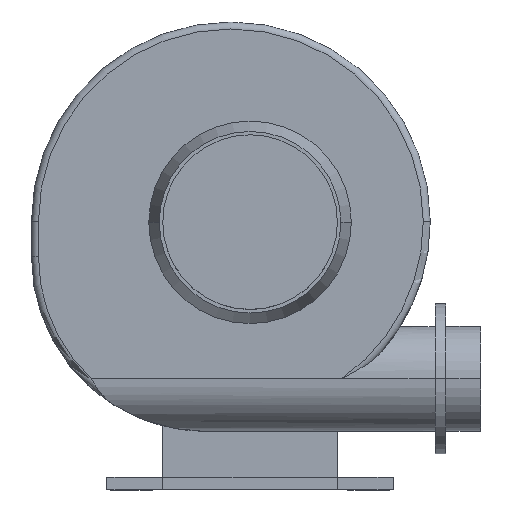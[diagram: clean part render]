
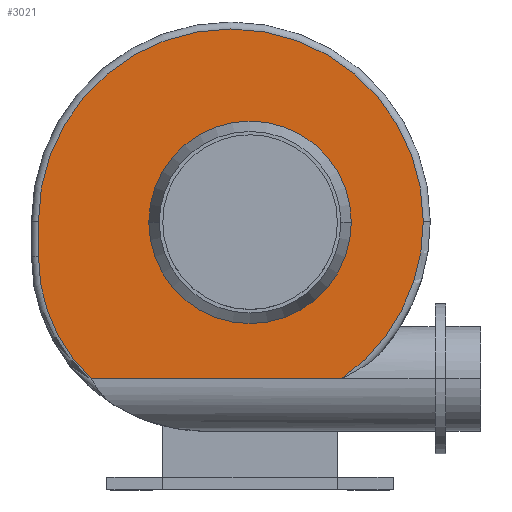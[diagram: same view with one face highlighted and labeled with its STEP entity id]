
A CAD part, top view. The second image highlights one B-rep face of the part: STEP entity #3021.
In plain terms, the highlighted planar face has unit normal (0, 0, 1).
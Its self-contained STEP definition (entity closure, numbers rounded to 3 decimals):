
#47 = AXIS2_PLACEMENT_3D ( 'NONE', #1278, #2942, #1520 ) ;
#64 = CIRCLE ( 'NONE', #1644, 275.503 ) ;
#91 = VERTEX_POINT ( 'NONE', #974 ) ;
#254 = EDGE_CURVE ( 'NONE', #91, #2101, #878, .T. ) ;
#259 = CARTESIAN_POINT ( 'NONE',  ( -145., 0., 75. ) ) ;
#314 = CARTESIAN_POINT ( 'NONE',  ( -27.5, 1.324, 75. ) ) ;
#344 = EDGE_CURVE ( 'NONE', #2101, #1232, #1509, .T. ) ;
#364 = EDGE_CURVE ( 'NONE', #1741, #91, #1675, .T. ) ;
#377 = CIRCLE ( 'NONE', #611, 275.503 ) ;
#447 = EDGE_CURVE ( 'NONE', #1937, #2107, #1772, .T. ) ;
#469 = FACE_OUTER_BOUND ( 'NONE', #1677, .T. ) ;
#518 = ORIENTED_EDGE ( 'NONE', *, *, #1501, .T. ) ;
#555 = DIRECTION ( 'NONE',  ( 1., 0., 0. ) ) ;
#571 = DIRECTION ( 'NONE',  ( 1., 0., 0. ) ) ;
#584 = DIRECTION ( 'NONE',  ( 0., -1., 0. ) ) ;
#611 = AXIS2_PLACEMENT_3D ( 'NONE', #314, #1990, #555 ) ;
#717 = EDGE_CURVE ( 'NONE', #2107, #1937, #1123, .T. ) ;
#759 = VERTEX_POINT ( 'NONE', #2996 ) ;
#847 = CARTESIAN_POINT ( 'NONE',  ( 0., 0., 75. ) ) ;
#878 = CIRCLE ( 'NONE', #47, 240. ) ;
#893 = EDGE_CURVE ( 'NONE', #759, #1660, #64, .T. ) ;
#960 = DIRECTION ( 'NONE',  ( 0., 0., 1. ) ) ;
#974 = CARTESIAN_POINT ( 'NONE',  ( -303.003, -49., 75. ) ) ;
#1037 = CARTESIAN_POINT ( 'NONE',  ( -27.5, 1.324, 75. ) ) ;
#1092 = DIRECTION ( 'NONE',  ( 1., 0., 0. ) ) ;
#1123 = CIRCLE ( 'NONE', #2065, 145. ) ;
#1149 = ORIENTED_EDGE ( 'NONE', *, *, #364, .T. ) ;
#1232 = VERTEX_POINT ( 'NONE', #1525 ) ;
#1263 = CARTESIAN_POINT ( 'NONE',  ( -27.5, 1.324, 75. ) ) ;
#1266 = ORIENTED_EDGE ( 'NONE', *, *, #344, .T. ) ;
#1278 = CARTESIAN_POINT ( 'NONE',  ( -63.003, -49., 75. ) ) ;
#1300 = ORIENTED_EDGE ( 'NONE', *, *, #893, .T. ) ;
#1301 = CARTESIAN_POINT ( 'NONE',  ( -303.003, -49., 75. ) ) ;
#1354 = DIRECTION ( 'NONE',  ( 0., 0., 1. ) ) ;
#1501 = EDGE_CURVE ( 'NONE', #1232, #759, #377, .T. ) ;
#1504 = DIRECTION ( 'NONE',  ( 1., 0., 0. ) ) ;
#1509 = LINE ( 'NONE', #1542, #1670 ) ;
#1520 = DIRECTION ( 'NONE',  ( 1., 0., 0. ) ) ;
#1525 = CARTESIAN_POINT ( 'NONE',  ( 131.027, -224., 75. ) ) ;
#1539 = DIRECTION ( 'NONE',  ( 1., 0., 0. ) ) ;
#1542 = CARTESIAN_POINT ( 'NONE',  ( -250., -224., 75. ) ) ;
#1599 = CARTESIAN_POINT ( 'NONE',  ( -303.003, 1.324, 75. ) ) ;
#1636 = VECTOR ( 'NONE', #584, 1000. ) ;
#1644 = AXIS2_PLACEMENT_3D ( 'NONE', #1263, #2923, #1504 ) ;
#1660 = VERTEX_POINT ( 'NONE', #1599 ) ;
#1670 = VECTOR ( 'NONE', #571, 1000. ) ;
#1675 = LINE ( 'NONE', #1301, #1636 ) ;
#1677 = EDGE_LOOP ( 'NONE', ( #1266, #518, #1300, #2287, #1149, #1931 ) ) ;
#1741 = VERTEX_POINT ( 'NONE', #2986 ) ;
#1772 = CIRCLE ( 'NONE', #2886, 145. ) ;
#1781 = ORIENTED_EDGE ( 'NONE', *, *, #717, .F. ) ;
#1931 = ORIENTED_EDGE ( 'NONE', *, *, #254, .T. ) ;
#1937 = VERTEX_POINT ( 'NONE', #259 ) ;
#1990 = DIRECTION ( 'NONE',  ( 0., 0., 1. ) ) ;
#2005 = PLANE ( 'NONE',  #2156 ) ;
#2065 = AXIS2_PLACEMENT_3D ( 'NONE', #847, #2533, #1092 ) ;
#2101 = VERTEX_POINT ( 'NONE', #2154 ) ;
#2107 = VERTEX_POINT ( 'NONE', #2868 ) ;
#2154 = CARTESIAN_POINT ( 'NONE',  ( -227.244, -224., 75. ) ) ;
#2156 = AXIS2_PLACEMENT_3D ( 'NONE', #1037, #2955, #1539 ) ;
#2259 = EDGE_CURVE ( 'NONE', #1660, #1741, #2314, .T. ) ;
#2287 = ORIENTED_EDGE ( 'NONE', *, *, #2259, .T. ) ;
#2314 = CIRCLE ( 'NONE', #2684, 275.503 ) ;
#2328 = EDGE_LOOP ( 'NONE', ( #2813, #1781 ) ) ;
#2410 = CARTESIAN_POINT ( 'NONE',  ( -27.5, 1.324, 75. ) ) ;
#2533 = DIRECTION ( 'NONE',  ( 0., 0., 1. ) ) ;
#2647 = DIRECTION ( 'NONE',  ( 1., 0., 0. ) ) ;
#2684 = AXIS2_PLACEMENT_3D ( 'NONE', #2410, #960, #2647 ) ;
#2775 = CARTESIAN_POINT ( 'NONE',  ( 0., 0., 75. ) ) ;
#2813 = ORIENTED_EDGE ( 'NONE', *, *, #447, .F. ) ;
#2868 = CARTESIAN_POINT ( 'NONE',  ( 145., 0., 75. ) ) ;
#2886 = AXIS2_PLACEMENT_3D ( 'NONE', #2775, #1354, #2998 ) ;
#2913 = FACE_BOUND ( 'NONE', #2328, .T. ) ;
#2923 = DIRECTION ( 'NONE',  ( 0., 0., 1. ) ) ;
#2942 = DIRECTION ( 'NONE',  ( 0., 0., 1. ) ) ;
#2955 = DIRECTION ( 'NONE',  ( 0., 0., 1. ) ) ;
#2986 = CARTESIAN_POINT ( 'NONE',  ( -303.003, 1.282, 75. ) ) ;
#2996 = CARTESIAN_POINT ( 'NONE',  ( 248.003, 1.324, 75. ) ) ;
#2998 = DIRECTION ( 'NONE',  ( 1., 0., 0. ) ) ;
#3021 = ADVANCED_FACE ( 'NONE', ( #469, #2913 ), #2005, .T. ) ;
